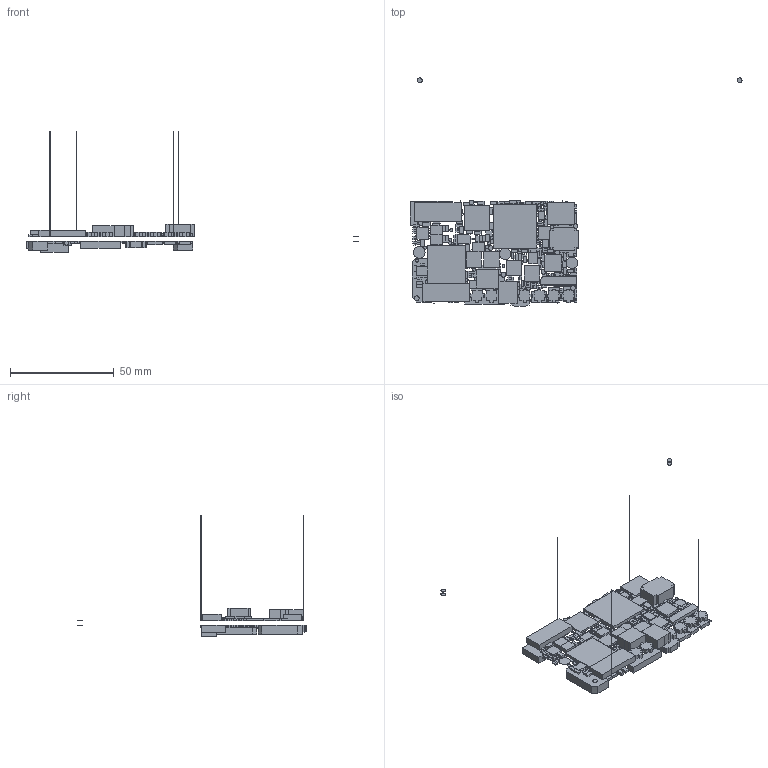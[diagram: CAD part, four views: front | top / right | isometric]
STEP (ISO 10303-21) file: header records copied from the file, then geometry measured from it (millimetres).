
FILE_DESCRIPTION(('FreeCAD Model'),'2;1');
FILE_NAME('D:/Working/MARIS/LDVC_R3/Out/ldvc_r3.step', '2016-06-08T17:28:13',('FreeCAD'),('FreeCAD'), 'Open CASCADE STEP processor 6.5','FreeCAD','Unknown');
FILE_SCHEMA(('AUTOMOTIVE_DESIGN_CC2 { 1 2 10303 214 -1 1 5 4 }'));
Length unit declared in the file: millimetre
Products named in the file (815): C110; C140; C150; C166; C173; C146; C119; C102; C109; C108; C101; C130; C134; C199; C170; C13; C211; C104; C17; C172; C198; C163; C126; C183; C107; C185; C191; C159; C131; C122; C194; C178; C114; C221; C196; C133; C224; C181; C18; C117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
Bounding box: 160.18 x 110.11 x 58.36 mm (x, y, z)
Volume: 9952.7 mm3; surface area: 16608.8 mm2
Topology: 814 solids, 814 shells, 4933 faces, 9915 edges, 6610 vertices
Faces by surface type: plane 4837, cylinder 96
Entity records: 269389 total; most frequent: CARTESIAN_POINT 41865, DIRECTION 39709, LINE 29361, VECTOR 29361, ORIENTED_EDGE 19830, PCURVE 19830, DEFINITIONAL_REPRESENTATION 19830, EDGE_CURVE 9915
